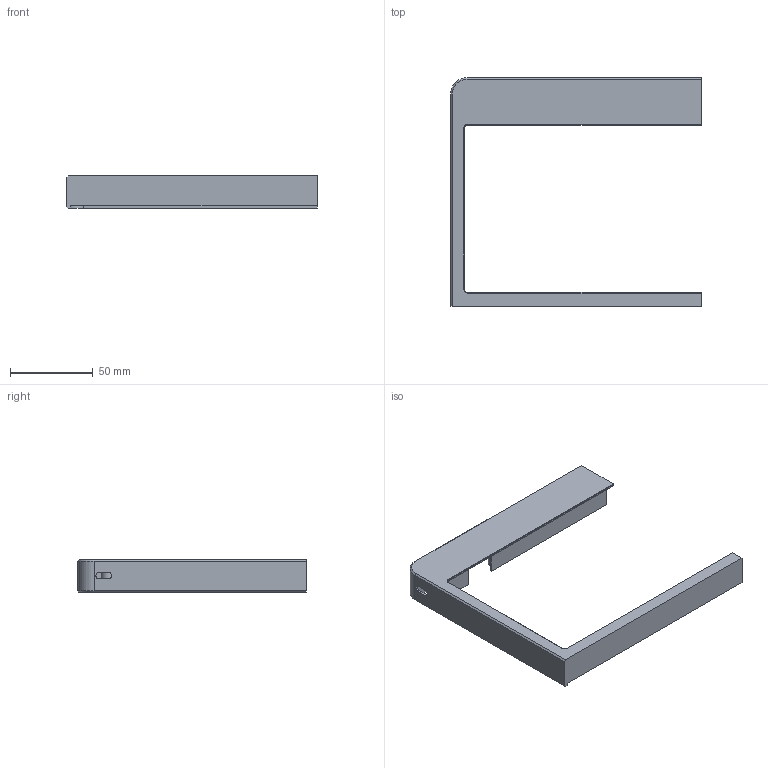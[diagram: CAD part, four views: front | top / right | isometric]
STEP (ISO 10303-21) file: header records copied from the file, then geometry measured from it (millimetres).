
FILE_DESCRIPTION(('Open CASCADE Model'),'2;1');
FILE_NAME('top_RL','2026-11-19T00:45:42',('Author'),('Open CASCADE'), 'Open CASCADE STEP processor 8.0','build123d','Unknown');
FILE_SCHEMA(('AUTOMOTIVE_DESIGN { 1 0 10303 214 1 1 1 1 }'));
Length unit declared in the file: millimetre
Products named in the file (1): top_RL
Bounding box: 151.68 x 138.44 x 19.75 mm (x, y, z)
Volume: 30472.3 mm3; surface area: 36141.5 mm2
Topology: 1 solids, 1 shells, 71 faces, 189 edges, 123 vertices
Faces by surface type: plane 54, cylinder 13, cone 4
Full cylindrical faces by diameter (mm): 4.2 x3
Entity records: 4580 total; most frequent: CARTESIAN_POINT 954, DIRECTION 610, LINE 389, VECTOR 389, ORIENTED_EDGE 378, PCURVE 378, DEFINITIONAL_REPRESENTATION 378, EDGE_CURVE 189
